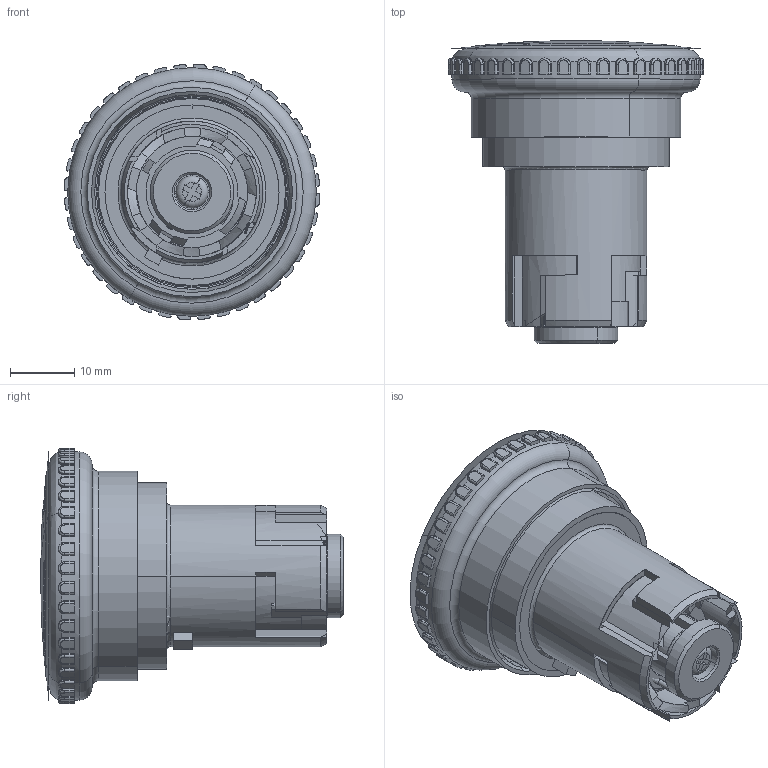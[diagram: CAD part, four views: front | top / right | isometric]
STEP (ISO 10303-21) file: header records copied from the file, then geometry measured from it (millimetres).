
FILE_DESCRIPTION((''),'2;1');
FILE_NAME('FUNGUS_PUSHBUTTON_03_23_ASM','2021-05-14T',('Administrator'),(''),'PRO/ENGINEER BY PARAMETRIC TECHNOLOGY CORPORATION, 2008380','PRO/ENGINEER BY PARAMETRIC TECHNOLOGY CORPORATION, 2008380','');
FILE_SCHEMA(('CONFIG_CONTROL_DESIGN'));
Length unit declared in the file: millimetre
Products named in the file (13): FUNGUS_LUO_HEAD_03_21; FUNGUS_HEART_03_23; FUNGUS_FLOWER_03_21; FUNGUS_ERASER_03_21; FUNGUS_HEAD_03_20; FUNGUS_HEART_03_22; FUNGUS_SPEED_3_20; FUNGUS_BOARD_03_20; FUNGUS_BOLT_03_26; 2009_02_FUNGUS_SPRING; 2009_02_FUNGUS_SPRING_1; FUNGUS_HEAD_03_23_ASM; FUNGUS_PUSHBUTTON_03_23_ASM
Assembly tree (12 placements, depth 3):
  FUNGUS_PUSHBUTTON_03_23_ASM
    FUNGUS_LUO_HEAD_03_21
    FUNGUS_HEART_03_23
    FUNGUS_FLOWER_03_21
    FUNGUS_ERASER_03_21
    FUNGUS_HEAD_03_23_ASM
      FUNGUS_HEAD_03_20
      FUNGUS_HEART_03_22
      FUNGUS_SPEED_3_20
      FUNGUS_BOARD_03_20
      FUNGUS_BOLT_03_26
      2009_02_FUNGUS_SPRING
      2009_02_FUNGUS_SPRING_1
Bounding box: 39.59 x 47 x 39.59 mm (x, y, z)
Volume: 16753.1 mm3; surface area: 27696.2 mm2
Topology: 11 solids, 20 shells, 900 faces, 2291 edges, 1451 vertices
Faces by surface type: plane 381, cylinder 370, bspline 70, torus 38, cone 24, sphere 17
Entity records: 37672 total; most frequent: CARTESIAN_POINT 16020, ORIENTED_EDGE 4515, DIRECTION 4463, EDGE_CURVE 2283, AXIS2_PLACEMENT_3D 1720, VERTEX_POINT 1451, VECTOR 1023, LINE 1023
